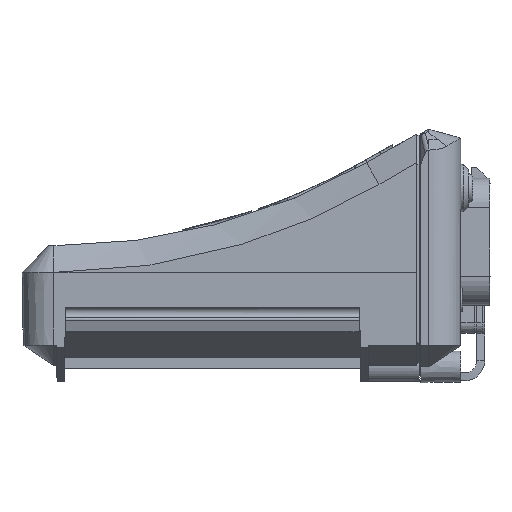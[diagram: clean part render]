
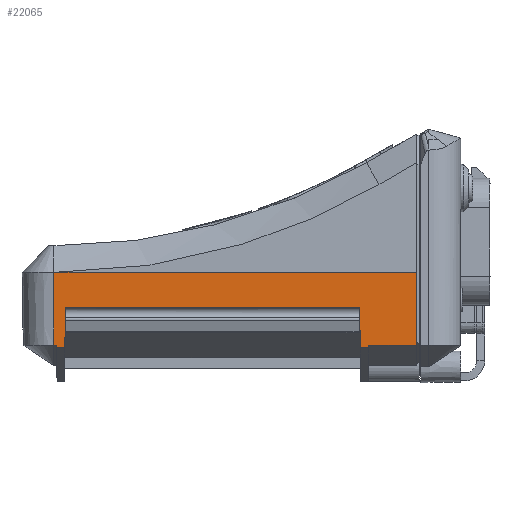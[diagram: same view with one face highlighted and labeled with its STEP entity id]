
A CAD part, left-side view. The second image highlights one B-rep face of the part: STEP entity #22065.
In plain terms, the highlighted planar face has unit normal (-1, 0, -0.018).
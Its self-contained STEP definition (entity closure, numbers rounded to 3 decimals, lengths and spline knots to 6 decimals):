
#2790=ORIENTED_EDGE('',*,*,#9330,.F.);
#2791=ORIENTED_EDGE('',*,*,#9361,.T.);
#2792=ORIENTED_EDGE('',*,*,#9360,.F.);
#2793=ORIENTED_EDGE('',*,*,#9362,.T.);
#2794=ORIENTED_EDGE('',*,*,#9363,.F.);
#2795=ORIENTED_EDGE('',*,*,#9364,.T.);
#2796=ORIENTED_EDGE('',*,*,#9365,.F.);
#2797=ORIENTED_EDGE('',*,*,#9344,.F.);
#2798=ORIENTED_EDGE('',*,*,#8868,.F.);
#2799=ORIENTED_EDGE('',*,*,#9366,.F.);
#2800=ORIENTED_EDGE('',*,*,#8895,.T.);
#2801=ORIENTED_EDGE('',*,*,#9367,.T.);
#8868=EDGE_CURVE('',#12206,#12207,#14362,.T.);
#8895=EDGE_CURVE('',#12233,#12232,#14383,.T.);
#9330=EDGE_CURVE('',#12603,#12604,#14561,.T.);
#9344=EDGE_CURVE('',#12207,#12609,#14575,.T.);
#9360=EDGE_CURVE('',#12618,#12617,#14587,.T.);
#9361=EDGE_CURVE('',#12603,#12617,#14588,.T.);
#9362=EDGE_CURVE('',#12618,#12619,#14589,.T.);
#9363=EDGE_CURVE('',#12620,#12619,#14590,.T.);
#9364=EDGE_CURVE('',#12620,#12621,#14591,.T.);
#9365=EDGE_CURVE('',#12609,#12621,#14592,.T.);
#9366=EDGE_CURVE('',#12233,#12206,#14593,.T.);
#9367=EDGE_CURVE('',#12232,#12604,#14594,.T.);
#12206=VERTEX_POINT('',#31643);
#12207=VERTEX_POINT('',#31645);
#12232=VERTEX_POINT('',#31698);
#12233=VERTEX_POINT('',#31700);
#12603=VERTEX_POINT('',#35813);
#12604=VERTEX_POINT('',#35815);
#12609=VERTEX_POINT('',#35839);
#12617=VERTEX_POINT('',#35867);
#12618=VERTEX_POINT('',#35869);
#12619=VERTEX_POINT('',#35874);
#12620=VERTEX_POINT('',#35876);
#12621=VERTEX_POINT('',#35878);
#14362=LINE('',#31644,#16380);
#14383=LINE('',#31699,#16401);
#14561=LINE('',#35814,#16579);
#14575=LINE('',#35841,#16593);
#14587=LINE('',#35870,#16605);
#14588=LINE('',#35872,#16606);
#14589=LINE('',#35873,#16607);
#14590=LINE('',#35875,#16608);
#14591=LINE('',#35877,#16609);
#14592=LINE('',#35879,#16610);
#14593=LINE('',#35880,#16611);
#14594=LINE('',#35881,#16612);
#16380=VECTOR('',#25300,1.);
#16401=VECTOR('',#25337,1.);
#16579=VECTOR('',#25715,1.);
#16593=VECTOR('',#25743,1.);
#16605=VECTOR('',#25771,1.);
#16606=VECTOR('',#25774,1.);
#16607=VECTOR('',#25775,1.);
#16608=VECTOR('',#25776,1.);
#16609=VECTOR('',#25777,1.);
#16610=VECTOR('',#25778,1.);
#16611=VECTOR('',#25779,1.);
#16612=VECTOR('',#25780,1.);
#18456=EDGE_LOOP('',(#2790,#2791,#2792,#2793,#2794,#2795,#2796,#2797,#2798,
#2799,#2800,#2801));
#19917=FACE_BOUND('',#18456,.T.);
#21270=PLANE('',#23422);
#22065=ADVANCED_FACE('',(#19917),#21270,.T.);
#23422=AXIS2_PLACEMENT_3D('',#35871,#25772,#25773);
#25300=DIRECTION('',(-0.017,0.017,1.));
#25337=DIRECTION('',(-0.017,-0.017,1.));
#25715=DIRECTION('',(0.017,0.,-1.));
#25743=DIRECTION('',(0.,1.,0.));
#25771=DIRECTION('',(-0.017,0.,1.));
#25772=DIRECTION('',(-1.,0.,-0.017));
#25773=DIRECTION('',(-0.017,0.,1.));
#25774=DIRECTION('',(0.,1.,0.));
#25775=DIRECTION('',(0.,-1.,0.));
#25776=DIRECTION('',(-0.017,0.017,1.));
#25777=DIRECTION('',(0.,-1.,0.));
#25778=DIRECTION('',(0.017,0.017,-1.));
#25779=DIRECTION('',(0.,1.,0.));
#25780=DIRECTION('',(0.,-1.,0.));
#31643=CARTESIAN_POINT('',(-0.065407,0.012532,-0.012978));
#31644=CARTESIAN_POINT('',(-0.065355,0.01248,-0.015945));
#31645=CARTESIAN_POINT('',(-0.065539,0.012664,-0.005419));
#31698=CARTESIAN_POINT('',(-0.065416,0.010959,-0.012472));
#31699=CARTESIAN_POINT('',(-0.065647,0.010728,0.000765));
#31700=CARTESIAN_POINT('',(-0.065407,0.010968,-0.012978));
#35813=CARTESIAN_POINT('',(-0.065654,0.002,0.001188));
#35814=CARTESIAN_POINT('',(-0.06611,0.002,0.027306));
#35815=CARTESIAN_POINT('',(-0.065416,0.002,-0.012472));
#35839=CARTESIAN_POINT('',(-0.065539,0.067836,-0.005419));
#35841=CARTESIAN_POINT('',(-0.065539,0.036,-0.005419));
#35867=CARTESIAN_POINT('',(-0.065654,0.07,0.001188));
#35869=CARTESIAN_POINT('',(-0.065416,0.07,-0.012472));
#35870=CARTESIAN_POINT('',(-0.065654,0.07,0.001188));
#35871=CARTESIAN_POINT('',(-0.065654,0.035,0.001188));
#35872=CARTESIAN_POINT('',(-0.065654,0.035,0.001188));
#35873=CARTESIAN_POINT('',(-0.065416,0.07,-0.012472));
#35874=CARTESIAN_POINT('',(-0.065416,0.069541,-0.012472));
#35875=CARTESIAN_POINT('',(-0.065355,0.06948,-0.015945));
#35876=CARTESIAN_POINT('',(-0.065407,0.069532,-0.012978));
#35877=CARTESIAN_POINT('',(-0.065407,0.035,-0.012978));
#35878=CARTESIAN_POINT('',(-0.065407,0.067968,-0.012978));
#35879=CARTESIAN_POINT('',(-0.065355,0.06802,-0.015945));
#35880=CARTESIAN_POINT('',(-0.065407,0.035,-0.012978));
#35881=CARTESIAN_POINT('',(-0.065416,0.07,-0.012472));
